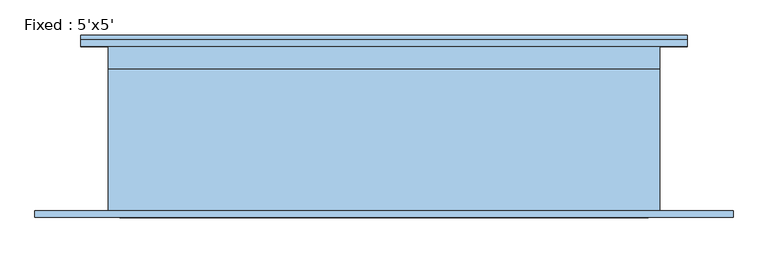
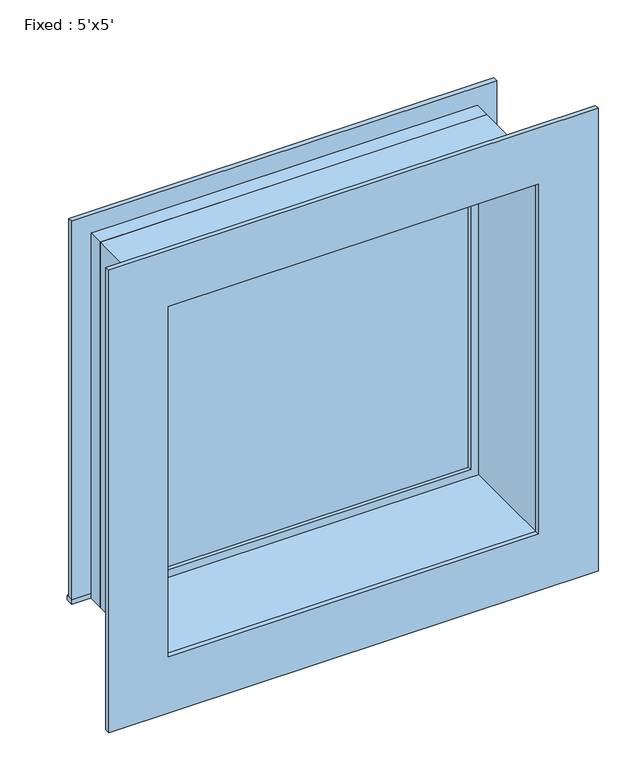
"""IFC4 building model written with IfcOpenShell, lengths in millimetres: window geometry, Fixed : 5'x5'."""

from ifc_helpers import new_model, si_unit, frame, origin, place, context, project, spatial, polyline, outline, extrude, source, transform, mapped, element, save


def fixed_5_x5_e2f24dca(model_context):
    return source(origin(), model_context, "Body", "SweptSolid", [
        extrude(outline(polyline([(-876.3, 258.7625), (800.1, 258.7625), (800.1, 227.0125), (-876.3, 227.0125), (-876.3, 258.7625)])), frame((0.0, 0.0, 914.4), z_axis=(0.0, 0.0, 1.0), x_axis=(1.0, 0.0, 0.0)), (0.0, 0.0, 1.0), 19.05),
        extrude(outline(polyline([(2419.35, -781.05), (2419.35, 704.85), (933.45, 704.85), (933.45, 800.1), (2514.6, 800.1), (2514.6, -876.3), (933.45, -876.3), (933.45, -781.05), (2419.35, -781.05)])), frame((0.0, 227.0125, 0.0), z_axis=(0.0, 1.0, 0.0), x_axis=(0.0, 0.0, 1.0)), (0.0, 0.0, 1.0), 19.05),
        extrude(outline(polyline([(2641.6, 927.1), (2641.6, -1003.3), (711.2, -1003.3), (711.2, 927.1), (2641.6, 927.1)]), holes=[polyline([(2406.65, 692.15), (946.15, 692.15), (946.15, -768.35), (2406.65, -768.35), (2406.65, 692.15)])]), frame((0.0, -246.0625, 0.0), z_axis=(0.0, 1.0, 0.0), x_axis=(0.0, 0.0, 1.0)), (0.0, 0.0, 1.0), 19.05),
        extrude(outline(polyline([(660.4, 179.3875), (-736.6, 179.3875), (-736.6, 192.0875), (660.4, 192.0875), (660.4, 179.3875)])), frame((0.0, 0.0, 977.9), z_axis=(0.0, 0.0, 1.0), x_axis=(1.0, 0.0, 0.0)), (0.0, 0.0, 1.0), 1397.0),
        extrude(outline(polyline([(2419.35, -781.05), (933.45, -781.05), (933.45, 704.85), (2419.35, 704.85), (2419.35, -781.05)]), holes=[polyline([(2374.9, -736.6), (2374.9, 660.4), (977.9, 660.4), (977.9, -736.6), (2374.9, -736.6)])]), frame((0.0, 163.5125, 0.0), z_axis=(0.0, 1.0, 0.0), x_axis=(0.0, 0.0, 1.0)), (0.0, 0.0, 1.0), 44.45),
        extrude(outline(polyline([(2438.4, -800.1), (914.4, -800.1), (914.4, 723.9), (2438.4, 723.9), (2438.4, -800.1)]), holes=[polyline([(2406.65, -768.35), (2406.65, 692.15), (946.15, 692.15), (946.15, -768.35), (2406.65, -768.35)])]), frame((0.0, -227.0125, 0.0), z_axis=(0.0, 1.0, 0.0), x_axis=(0.0, 0.0, 1.0)), (0.0, 0.0, 1.0), 390.525),
        extrude(outline(polyline([(2438.4, 723.9), (2438.4, -800.1), (914.4, -800.1), (914.4, 723.9), (2438.4, 723.9)]), holes=[polyline([(2419.35, 704.85), (933.45, 704.85), (933.45, -781.05), (2419.35, -781.05), (2419.35, 704.85)])]), frame((0.0, 163.5125, 0.0), z_axis=(0.0, 1.0, 0.0), x_axis=(0.0, 0.0, 1.0)), (0.0, 0.0, 1.0), 63.5),
    ])


if __name__ == "__main__":
    model = new_model("IFC4")
    model_context = context("Model", 3, world=origin())
    ifc_project = project(units=[si_unit("LENGTHUNIT", "METRE", prefix="MILLI")], contexts=[model_context])
    site = spatial("IfcSite", under=ifc_project)
    building = spatial("IfcBuilding", under=site)
    placement = place(None, origin())
    fixed_5_x5_shape = fixed_5_x5_e2f24dca(model_context)
    element("IfcWindow", 1, ObjectType="Fixed : 5'x5'", at=placement, inside=building, context=model_context, shape_type="MappedRepresentation", body=[
        mapped(fixed_5_x5_shape, transform((0.0, 0.0, 0.0), x_axis=(1.0, 0.0, 0.0), y_axis=(0.0, 1.0, 0.0), z_axis=(0.0, 0.0, 1.0))),
    ])
    save(model, "model.ifc")
